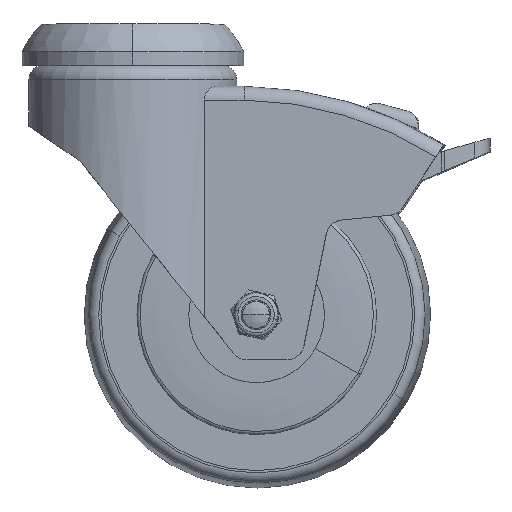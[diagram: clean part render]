
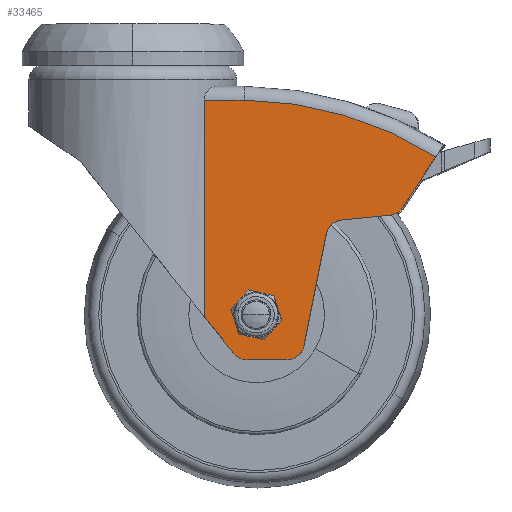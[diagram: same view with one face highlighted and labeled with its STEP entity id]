
A CAD part, top view. The second image highlights one B-rep face of the part: STEP entity #33465.
In plain terms, the highlighted planar face has unit normal (-0.013, 0, 1) as drawn and (1, 0, 0) by its records, which use the part's own axes.
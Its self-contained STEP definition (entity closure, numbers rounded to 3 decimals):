
#734 = CARTESIAN_POINT ( 'NONE',  ( 21.5, 72., 32. ) ) ;
#975 = AXIS2_PLACEMENT_3D ( 'NONE', #5088, #15443, #25792 ) ;
#1371 = CARTESIAN_POINT ( 'NONE',  ( 21.5, 72., 36. ) ) ;
#1547 = VERTEX_POINT ( 'NONE', #7910 ) ;
#1934 = CIRCLE ( 'NONE', #23623, 5. ) ;
#2189 = DIRECTION ( 'NONE',  ( 0., 0.1, -0.995 ) ) ;
#2344 = DIRECTION ( 'NONE',  ( 0., -1., 0. ) ) ;
#2818 = ORIENTED_EDGE ( 'NONE', *, *, #15242, .T. ) ;
#2884 = LINE ( 'NONE', #5928, #3361 ) ;
#2905 = CARTESIAN_POINT ( 'NONE',  ( 21.5, 80., 44.823 ) ) ;
#2935 = CARTESIAN_POINT ( 'NONE',  ( 21.5, 85., 20.922 ) ) ;
#3361 = VECTOR ( 'NONE', #31207, 1000. ) ;
#3846 = VERTEX_POINT ( 'NONE', #11271 ) ;
#3885 = CIRCLE ( 'NONE', #32604, 4. ) ;
#3983 = CARTESIAN_POINT ( 'NONE',  ( 21.5, 38.263, 74.046 ) ) ;
#4048 = VERTEX_POINT ( 'NONE', #6253 ) ;
#4611 = CIRCLE ( 'NONE', #27360, 4. ) ;
#4725 = CARTESIAN_POINT ( 'NONE',  ( 21.5, 10., 100. ) ) ;
#4762 = ORIENTED_EDGE ( 'NONE', *, *, #16878, .F. ) ;
#4893 = CARTESIAN_POINT ( 'NONE',  ( 21.5, 72., 36. ) ) ;
#5088 = CARTESIAN_POINT ( 'NONE',  ( 21.5, 115.993, 31.244 ) ) ;
#5590 = ORIENTED_EDGE ( 'NONE', *, *, #24392, .T. ) ;
#5726 = VERTEX_POINT ( 'NONE', #31560 ) ;
#5819 = VECTOR ( 'NONE', #27958, 1000. ) ;
#5928 = CARTESIAN_POINT ( 'NONE',  ( 21.5, 61.851, 64.597 ) ) ;
#6212 = DIRECTION ( 'NONE',  ( 0., 0., -1. ) ) ;
#6253 = CARTESIAN_POINT ( 'NONE',  ( 21.5, 85., 44.823 ) ) ;
#6588 = AXIS2_PLACEMENT_3D ( 'NONE', #26063, #29118, #29285 ) ;
#6597 = AXIS2_PLACEMENT_3D ( 'NONE', #3983, #14335, #24678 ) ;
#6788 = ORIENTED_EDGE ( 'NONE', *, *, #22895, .T. ) ;
#6796 = DIRECTION ( 'NONE',  ( -1., 0., 0. ) ) ;
#6970 = DIRECTION ( 'NONE',  ( 0., -1., 0. ) ) ;
#7507 = DIRECTION ( 'NONE',  ( 0., -1., 0. ) ) ;
#7910 = CARTESIAN_POINT ( 'NONE',  ( 21.5, 85., 33.328 ) ) ;
#7966 = LINE ( 'NONE', #29475, #20127 ) ;
#8538 = AXIS2_PLACEMENT_3D ( 'NONE', #30578, #23119, #7507 ) ;
#8852 = DIRECTION ( 'NONE',  ( -1., 0., 0. ) ) ;
#9472 = ORIENTED_EDGE ( 'NONE', *, *, #9663, .T. ) ;
#9638 = DIRECTION ( 'NONE',  ( 0., 0., -1. ) ) ;
#9663 = EDGE_CURVE ( 'NONE', #32906, #3846, #15289, .T. ) ;
#9765 = EDGE_CURVE ( 'NONE', #11168, #16405, #17887, .T. ) ;
#9970 = CARTESIAN_POINT ( 'NONE',  ( 21.5, 118.684, 57.824 ) ) ;
#10113 = CARTESIAN_POINT ( 'NONE',  ( 21.5, 10., 20.922 ) ) ;
#10197 = EDGE_LOOP ( 'NONE', ( #33408, #26278 ) ) ;
#10334 = VERTEX_POINT ( 'NONE', #13453 ) ;
#10686 = EDGE_CURVE ( 'NONE', #17294, #3846, #2884, .T. ) ;
#11168 = VERTEX_POINT ( 'NONE', #10113 ) ;
#11271 = CARTESIAN_POINT ( 'NONE',  ( 21.5, 40.999, 78.231 ) ) ;
#11286 = CIRCLE ( 'NONE', #975, 106. ) ;
#11775 = LINE ( 'NONE', #17035, #30012 ) ;
#11915 = CIRCLE ( 'NONE', #16261, 5. ) ;
#12110 = VERTEX_POINT ( 'NONE', #33022 ) ;
#12183 = CARTESIAN_POINT ( 'NONE',  ( 21.5, 26.348, 87.811 ) ) ;
#13042 = ORIENTED_EDGE ( 'NONE', *, *, #9765, .T. ) ;
#13211 = EDGE_CURVE ( 'NONE', #10334, #16405, #17112, .T. ) ;
#13339 = ORIENTED_EDGE ( 'NONE', *, *, #25568, .T. ) ;
#13453 = CARTESIAN_POINT ( 'NONE',  ( 21.5, 83.12, 29.421 ) ) ;
#13894 = EDGE_CURVE ( 'NONE', #10334, #1547, #16153, .T. ) ;
#14076 = ORIENTED_EDGE ( 'NONE', *, *, #19137, .F. ) ;
#14335 = DIRECTION ( 'NONE',  ( 1., 0., 0. ) ) ;
#14910 = VECTOR ( 'NONE', #9638, 1000. ) ;
#15098 = CARTESIAN_POINT ( 'NONE',  ( 21.5, 72., 40. ) ) ;
#15242 = EDGE_CURVE ( 'NONE', #17294, #27222, #11286, .T. ) ;
#15289 = CIRCLE ( 'NONE', #6597, 5. ) ;
#15410 = LINE ( 'NONE', #4725, #14910 ) ;
#15443 = DIRECTION ( 'NONE',  ( 1., 0., 0. ) ) ;
#15644 = DIRECTION ( 'NONE',  ( 0., -1., 0. ) ) ;
#15817 = VERTEX_POINT ( 'NONE', #26673 ) ;
#16153 = CIRCLE ( 'NONE', #8538, 5. ) ;
#16261 = AXIS2_PLACEMENT_3D ( 'NONE', #16995, #8852, #29726 ) ;
#16405 = VERTEX_POINT ( 'NONE', #25083 ) ;
#16875 = VERTEX_POINT ( 'NONE', #15098 ) ;
#16878 = EDGE_CURVE ( 'NONE', #32906, #5726, #25441, .T. ) ;
#16995 = CARTESIAN_POINT ( 'NONE',  ( 21.5, 49.607, 61.1 ) ) ;
#17035 = CARTESIAN_POINT ( 'NONE',  ( 21.5, 75.177, 50.887 ) ) ;
#17112 = LINE ( 'NONE', #9970, #5819 ) ;
#17294 = VERTEX_POINT ( 'NONE', #12183 ) ;
#17812 = ORIENTED_EDGE ( 'NONE', *, *, #10686, .F. ) ;
#17887 = LINE ( 'NONE', #2935, #22879 ) ;
#18769 = FACE_OUTER_BOUND ( 'NONE', #22331, .T. ) ;
#18932 = PLANE ( 'NONE',  #6588 ) ;
#19137 = EDGE_CURVE ( 'NONE', #4048, #1547, #7966, .T. ) ;
#20127 = VECTOR ( 'NONE', #6212, 1000. ) ;
#20346 = DIRECTION ( 'NONE',  ( -1., 0., 0. ) ) ;
#21095 = ORIENTED_EDGE ( 'NONE', *, *, #27487, .F. ) ;
#21323 = FACE_BOUND ( 'NONE', #10197, .T. ) ;
#21800 = DIRECTION ( 'NONE',  ( 0., 0.981, -0.196 ) ) ;
#22331 = EDGE_LOOP ( 'NONE', ( #2818, #5590, #13042, #28650, #22576, #14076, #13339, #21095, #6788, #4762, #9472, #17812 ) ) ;
#22576 = ORIENTED_EDGE ( 'NONE', *, *, #13894, .T. ) ;
#22730 = CARTESIAN_POINT ( 'NONE',  ( 21.5, 43.238, 74.544 ) ) ;
#22879 = VECTOR ( 'NONE', #23640, 1000. ) ;
#22895 = EDGE_CURVE ( 'NONE', #12110, #5726, #11915, .T. ) ;
#23119 = DIRECTION ( 'NONE',  ( 1., 0., 0. ) ) ;
#23623 = AXIS2_PLACEMENT_3D ( 'NONE', #2905, #29386, #15644 ) ;
#23640 = DIRECTION ( 'NONE',  ( 0., 1., 0. ) ) ;
#24392 = EDGE_CURVE ( 'NONE', #27222, #11168, #15410, .T. ) ;
#24453 = EDGE_CURVE ( 'NONE', #29055, #16875, #4611, .T. ) ;
#24678 = DIRECTION ( 'NONE',  ( 0., -1., 0. ) ) ;
#25083 = CARTESIAN_POINT ( 'NONE',  ( 21.5, 72.479, 20.922 ) ) ;
#25209 = CARTESIAN_POINT ( 'NONE',  ( 21.5, 10., 32.442 ) ) ;
#25441 = LINE ( 'NONE', #32567, #31741 ) ;
#25568 = EDGE_CURVE ( 'NONE', #4048, #15817, #1934, .T. ) ;
#25792 = DIRECTION ( 'NONE',  ( 0., -1., 0. ) ) ;
#26063 = CARTESIAN_POINT ( 'NONE',  ( 21.5, 85., 100. ) ) ;
#26278 = ORIENTED_EDGE ( 'NONE', *, *, #30581, .T. ) ;
#26673 = CARTESIAN_POINT ( 'NONE',  ( 21.5, 80.981, 49.726 ) ) ;
#27222 = VERTEX_POINT ( 'NONE', #25209 ) ;
#27360 = AXIS2_PLACEMENT_3D ( 'NONE', #4893, #20346, #2344 ) ;
#27487 = EDGE_CURVE ( 'NONE', #12110, #15817, #11775, .T. ) ;
#27958 = DIRECTION ( 'NONE',  ( 0., -0.781, -0.624 ) ) ;
#28650 = ORIENTED_EDGE ( 'NONE', *, *, #13211, .F. ) ;
#29055 = VERTEX_POINT ( 'NONE', #734 ) ;
#29118 = DIRECTION ( 'NONE',  ( -1., 0., 0. ) ) ;
#29285 = DIRECTION ( 'NONE',  ( 0., -1., 0. ) ) ;
#29386 = DIRECTION ( 'NONE',  ( 1., 0., 0. ) ) ;
#29475 = CARTESIAN_POINT ( 'NONE',  ( 21.5, 85., 100. ) ) ;
#29726 = DIRECTION ( 'NONE',  ( 0., -1., 0. ) ) ;
#30012 = VECTOR ( 'NONE', #21800, 1000. ) ;
#30578 = CARTESIAN_POINT ( 'NONE',  ( 21.5, 80., 33.328 ) ) ;
#30581 = EDGE_CURVE ( 'NONE', #16875, #29055, #3885, .T. ) ;
#31207 = DIRECTION ( 'NONE',  ( 0., 0.837, -0.547 ) ) ;
#31560 = CARTESIAN_POINT ( 'NONE',  ( 21.5, 44.632, 60.603 ) ) ;
#31741 = VECTOR ( 'NONE', #2189, 1000. ) ;
#32567 = CARTESIAN_POINT ( 'NONE',  ( 21.5, 41.131, 95.613 ) ) ;
#32604 = AXIS2_PLACEMENT_3D ( 'NONE', #1371, #6796, #6970 ) ;
#32906 = VERTEX_POINT ( 'NONE', #22730 ) ;
#33022 = CARTESIAN_POINT ( 'NONE',  ( 21.5, 48.627, 56.197 ) ) ;
#33408 = ORIENTED_EDGE ( 'NONE', *, *, #24453, .T. ) ;
#33465 = ADVANCED_FACE ( 'NONE', ( #21323, #18769 ), #18932, .F. ) ;
